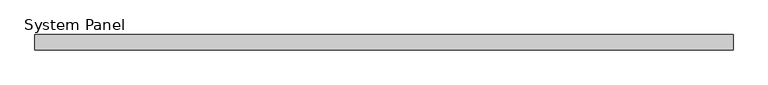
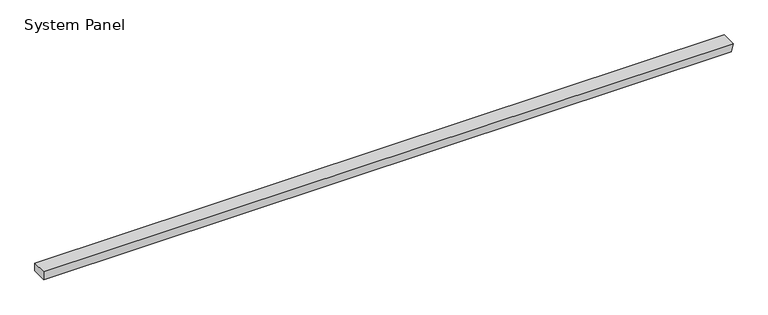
"""IFC4 building model written with IfcOpenShell, lengths in millimetres: plate geometry, System Panel : Equitilt_FlameGuard_150mm_Plain_Surfmist."""

from ifc_helpers import new_model, si_unit, frame, origin, place, context, project, spatial, polyline, outline, extrude, source, transform, mapped, element, save


def system_panel_aa546842(model_context):
    return source(origin(), model_context, "Body", "SweptSolid", [
        extrude(outline(polyline([(0.0, -3395.0), (0.0, 3377.6149856), (79.9704237, 3395.0), (79.9704237, -3395.0), (0.0, -3395.0)])), frame((0.0, -150.0, 0.0), z_axis=(0.0, 1.0, 0.0), x_axis=(0.0, 0.0, 1.0)), (0.0, 0.0, 1.0), 150.0),
    ])


if __name__ == "__main__":
    model = new_model("IFC4")
    model_context = context("Model", 3, world=origin())
    ifc_project = project(units=[si_unit("LENGTHUNIT", "METRE", prefix="MILLI")], contexts=[model_context])
    site = spatial("IfcSite", under=ifc_project)
    building = spatial("IfcBuilding", under=site)
    placement = place(None, origin())
    system_panel_shape = system_panel_aa546842(model_context)
    element("IfcPlate", 1, ObjectType="System Panel : Equitilt_FlameGuard_150mm_Plain_Surfmist", at=placement, inside=building, context=model_context, shape_type="MappedRepresentation", body=[
        mapped(system_panel_shape, transform((0.0, 0.0, 0.0), x_axis=(1.0, 0.0, 0.0), y_axis=(0.0, 1.0, 0.0), z_axis=(0.0, 0.0, 1.0))),
    ])
    save(model, "model.ifc")
